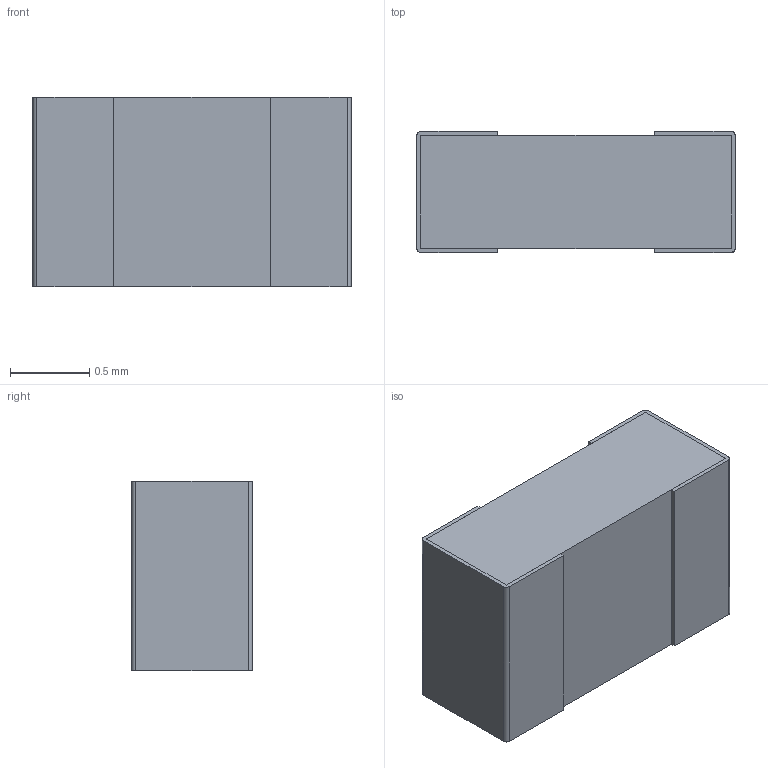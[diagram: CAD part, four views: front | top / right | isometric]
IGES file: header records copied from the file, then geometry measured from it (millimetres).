
Global section: file name: THJP0805A; native system: Autodesk Inventor LT ; preprocessor: unknown; author: Neil; date: 20191203.162021; units: inch
Bounding box: 2.01 x 0.76 x 1.19 mm (x, y, z)
Volume: 1.8 mm3; surface area: 17.6 mm2
Topology: 3 solids, 3 shells, 30 faces, 72 edges, 48 vertices
Faces by surface type: bspline 30
